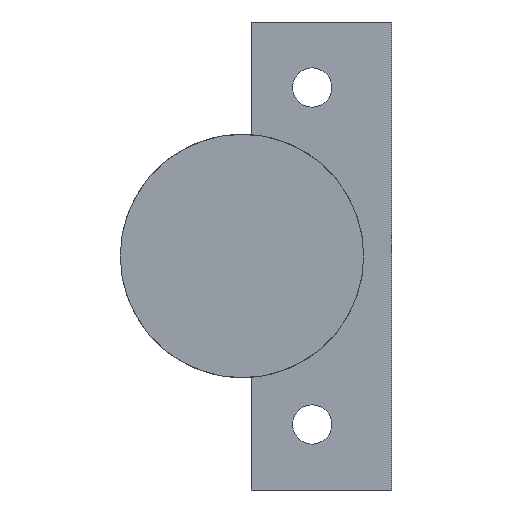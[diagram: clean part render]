
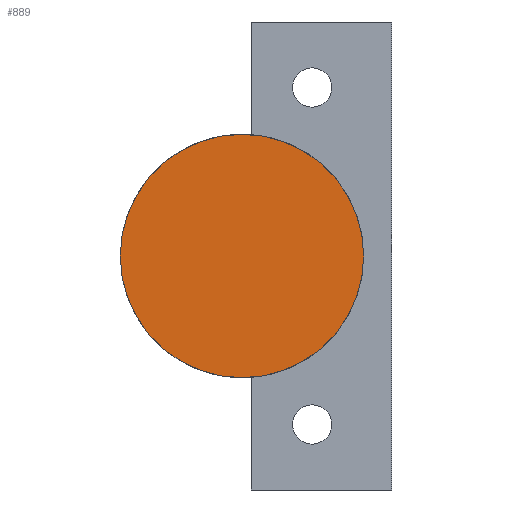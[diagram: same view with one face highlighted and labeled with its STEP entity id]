
A CAD part, front view. The second image highlights one B-rep face of the part: STEP entity #889.
In plain terms, the highlighted planar face has unit normal (0, -1, 0).
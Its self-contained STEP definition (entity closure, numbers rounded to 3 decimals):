
#7 = EDGE_CURVE ( 'NONE', #757, #729, #811, .T. ) ;
#12 = EDGE_CURVE ( 'NONE', #729, #757, #805, .T. ) ;
#33 = AXIS2_PLACEMENT_3D ( 'NONE', #955, #948, #946 ) ;
#112 = AXIS2_PLACEMENT_3D ( 'NONE', #1393, #1389, #1384 ) ;
#114 = AXIS2_PLACEMENT_3D ( 'NONE', #1403, #1412, #1400 ) ;
#315 = FACE_OUTER_BOUND ( 'NONE', #842, .T. ) ;
#595 = ORIENTED_EDGE ( 'NONE', *, *, #12, .F. ) ;
#604 = ORIENTED_EDGE ( 'NONE', *, *, #7, .F. ) ;
#729 = VERTEX_POINT ( 'NONE', #1175 ) ;
#757 = VERTEX_POINT ( 'NONE', #1170 ) ;
#805 = CIRCLE ( 'NONE', #112, 13. ) ;
#811 = CIRCLE ( 'NONE', #114, 13. ) ;
#842 = EDGE_LOOP ( 'NONE', ( #604, #595 ) ) ;
#889 = ADVANCED_FACE ( 'NONE', ( #315 ), #962, .F. ) ;
#946 = DIRECTION ( 'NONE',  ( -1., 0., 0. ) ) ;
#948 = DIRECTION ( 'NONE',  ( 0., 1., 0. ) ) ;
#955 = CARTESIAN_POINT ( 'NONE',  ( 3.002, -12.8, 0. ) ) ;
#962 = PLANE ( 'NONE',  #33 ) ;
#1170 = CARTESIAN_POINT ( 'NONE',  ( -9.998, -12.8, 0. ) ) ;
#1175 = CARTESIAN_POINT ( 'NONE',  ( 16.002, -12.8, 0. ) ) ;
#1384 = DIRECTION ( 'NONE',  ( -1., 0., 0. ) ) ;
#1389 = DIRECTION ( 'NONE',  ( 0., 1., 0. ) ) ;
#1393 = CARTESIAN_POINT ( 'NONE',  ( 3.002, -12.8, 0. ) ) ;
#1400 = DIRECTION ( 'NONE',  ( -1., 0., 0. ) ) ;
#1403 = CARTESIAN_POINT ( 'NONE',  ( 3.002, -12.8, 0. ) ) ;
#1412 = DIRECTION ( 'NONE',  ( 0., 1., 0. ) ) ;
